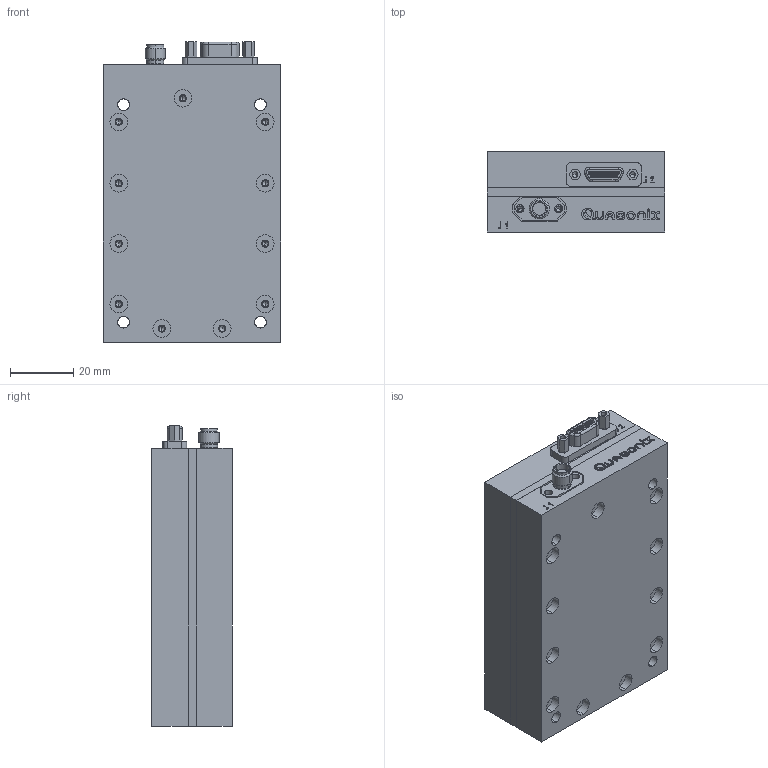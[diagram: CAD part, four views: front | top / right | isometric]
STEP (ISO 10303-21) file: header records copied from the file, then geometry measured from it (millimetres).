
FILE_DESCRIPTION (( 'STEP AP203' ), '1' );
FILE_NAME ('08AR 6-3-16.STEP', '2016-06-03T18:36:03', ( '' ), ( '' ), 'SwSTEP 2.0', 'SolidWorks 2016', '' );
FILE_SCHEMA (( 'CONFIG_CONTROL_DESIGN' ));
Length unit declared in the file: millimetre
Products named in the file (8): 08AR 6-3-16; QSX-T2-2.2X3.3-20PA-SEALED-B; QSX-T3-2.2X3.2-SHLD-SEALED-C; QSX-TF-2.2X3.2-DMP-SEAL-C; QSX-SEALED-TX-COVER-; GLENAIR-PLUG-MDM15-M8351303-B05N; QSX-2_56-JACKPOST-; RADIALL-SMA_TO_MMBX-FLANGEMOUNT-ADAPTER
Assembly tree (8 placements, depth 2):
  08AR 6-3-16
    QSX-T2-2.2X3.3-20PA-SEALED-B
    QSX-T3-2.2X3.2-SHLD-SEALED-C
    QSX-TF-2.2X3.2-DMP-SEAL-C
    QSX-SEALED-TX-COVER-
    GLENAIR-PLUG-MDM15-M8351303-B05N
    QSX-2_56-JACKPOST-  x2
    RADIALL-SMA_TO_MMBX-FLANGEMOUNT-ADAPTER
Bounding box: 55.88 x 25.4 x 94.82 mm (x, y, z)
Volume: 72302.1 mm3; surface area: 53306.6 mm2
Topology: 10 solids, 10 shells, 1822 faces, 4911 edges, 3181 vertices
Faces by surface type: cylinder 814, plane 698, bspline 123, cone 118, torus 67, sphere 2
Entity records: 59581 total; most frequent: CARTESIAN_POINT 12841, DIRECTION 9683, ORIENTED_EDGE 9558, EDGE_CURVE 4779, AXIS2_PLACEMENT_3D 3482, VERTEX_POINT 3156, VECTOR 2719, LINE 2719
